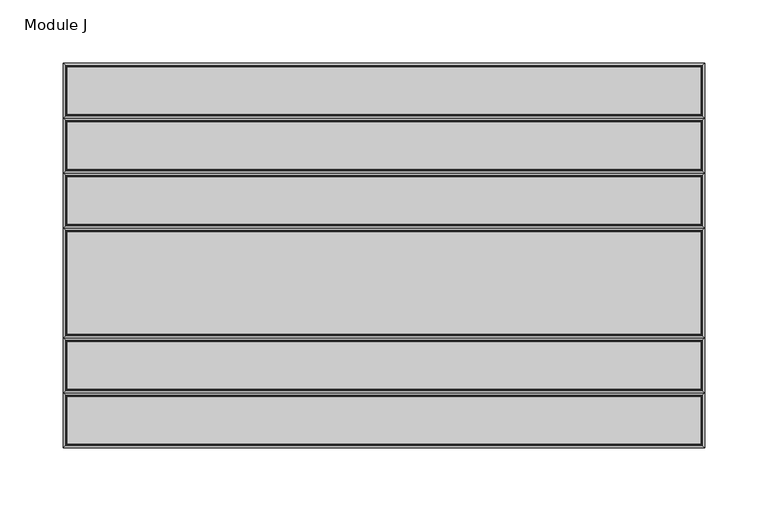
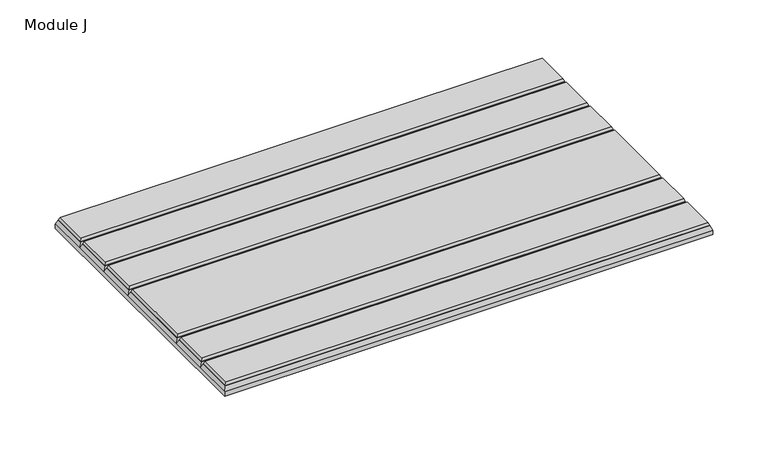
"""IFC4 building model written with IfcOpenShell, lengths in millimetres: proxy geometry, FilzFelt_Gap : Module J."""

from ifc_helpers import new_model, si_unit, origin, place, context, project, spatial, faceted_brep, source, transform, mapped, element, save


def module_j_3c90ee58(model_context):
    return source(origin(), model_context, "Body", "Brep", [
        faceted_brep([(-252.095, -150.495, 9.525), (252.095, -150.495, 9.525), (252.095, -110.7621429, 9.525), (-252.095, -110.7621429, 9.525), (252.095, 150.495, 9.525), (-252.095, 150.495, 9.525), (-252.095, 110.7621429, 9.525), (252.095, 110.7621429, 9.525), (252.095, 67.2192857, 9.525), (252.095, 106.9521429, 9.525), (-252.095, 106.9521429, 9.525), (-252.095, 67.2192857, 9.525), (252.095, 23.6764286, 9.525), (252.095, 63.4092857, 9.525), (-252.095, 63.4092857, 9.525), (-252.095, 23.6764286, 9.525), (252.095, -63.4092857, 9.525), (252.095, 19.8664286, 9.525), (-252.095, 19.8664286, 9.525), (-252.095, -63.4092857, 9.525), (252.095, -106.9521429, 9.525), (252.095, -67.2192857, 9.525), (-252.095, -67.2192857, 9.525), (-252.095, -106.9521429, 9.525), (254.0, 152.4, 0.0), (254.0, -152.4, 0.0), (-254.0, -152.4, 0.0), (-254.0, 152.4, 0.0), (-254.0, 152.4, 4.7625), (254.0, 152.4, 4.7625), (-254.0, -152.4, 4.7625), (-254.0, -108.8571429, 4.7625), (-254.0, -65.3142857, 4.7625), (-254.0, 21.7714286, 4.7625), (-254.0, 65.3142857, 4.7625), (-254.0, 108.8571429, 4.7625), (254.0, -152.4, 4.7625), (254.0, 108.8571429, 4.7625), (254.0, 65.3142857, 4.7625), (254.0, 21.7714286, 4.7625), (254.0, -65.3142857, 4.7625), (254.0, -108.8571429, 4.7625)], [[[0, 1, 2, 3]], [[4, 5, 6, 7]], [[8, 9, 10, 11]], [[12, 13, 14, 15]], [[16, 17, 18, 19]], [[20, 21, 22, 23]], [[24, 25, 26, 27]], [[24, 27, 28, 29]], [[27, 26, 30, 31, 32, 33, 34, 35, 28]], [[26, 25, 36, 30]], [[25, 24, 29, 37, 38, 39, 40, 41, 36]], [[9, 8, 38, 37]], [[13, 12, 39, 38]], [[17, 16, 40, 39]], [[21, 20, 41, 40]], [[1, 36, 41, 2]], [[29, 4, 7, 37]], [[36, 1, 0, 30]], [[11, 10, 35, 34]], [[15, 14, 34, 33]], [[19, 18, 33, 32]], [[23, 22, 32, 31]], [[30, 0, 3, 31]], [[5, 28, 35, 6]], [[28, 5, 4, 29]], [[35, 37, 7, 6]], [[37, 35, 10, 9]], [[34, 38, 8, 11]], [[38, 34, 14, 13]], [[33, 39, 12, 15]], [[39, 33, 18, 17]], [[32, 40, 16, 19]], [[40, 32, 22, 21]], [[31, 41, 20, 23]], [[41, 31, 3, 2]]]),
        faceted_brep([(252.095, -150.495, 9.525), (-252.095, -150.495, 9.525), (-252.095, -110.7621429, 9.525), (252.095, -110.7621429, 9.525), (-250.825, -149.225, 12.7), (250.825, -149.225, 12.7), (250.825, -112.0321429, 12.7), (-250.825, -112.0321429, 12.7)], [[[0, 1, 2, 3]], [[4, 5, 6, 7]], [[5, 0, 3, 6]], [[0, 5, 4, 1]], [[1, 4, 7, 2]], [[3, 2, 7, 6]]]),
        faceted_brep([(-252.095, 150.495, 9.525), (252.095, 150.495, 9.525), (252.095, 110.7621429, 9.525), (-252.095, 110.7621429, 9.525), (250.825, 149.225, 12.7), (-250.825, 149.225, 12.7), (-250.825, 112.0321429, 12.7), (250.825, 112.0321429, 12.7)], [[[0, 1, 2, 3]], [[4, 5, 6, 7]], [[1, 4, 7, 2]], [[5, 0, 3, 6]], [[0, 5, 4, 1]], [[3, 2, 7, 6]]]),
        faceted_brep([(252.095, 106.9521429, 9.525), (252.095, 67.2192857, 9.525), (-252.095, 67.2192857, 9.525), (-252.095, 106.9521429, 9.525), (250.825, 68.4892857, 12.7), (250.825, 105.6821429, 12.7), (-250.825, 105.6821429, 12.7), (-250.825, 68.4892857, 12.7)], [[[0, 1, 2, 3]], [[4, 5, 6, 7]], [[1, 0, 5, 4]], [[3, 2, 7, 6]], [[0, 3, 6, 5]], [[2, 1, 4, 7]]]),
        faceted_brep([(252.095, 63.4092857, 9.525), (252.095, 23.6764286, 9.525), (-252.095, 23.6764286, 9.525), (-252.095, 63.4092857, 9.525), (250.825, 24.9464286, 12.7), (250.825, 62.1392857, 12.7), (-250.825, 62.1392857, 12.7), (-250.825, 24.9464286, 12.7)], [[[0, 1, 2, 3]], [[4, 5, 6, 7]], [[1, 0, 5, 4]], [[3, 2, 7, 6]], [[0, 3, 6, 5]], [[2, 1, 4, 7]]]),
        faceted_brep([(252.095, 19.8664286, 9.525), (252.095, -63.4092857, 9.525), (-252.095, -63.4092857, 9.525), (-252.095, 19.8664286, 9.525), (250.825, -62.1392857, 12.7), (250.825, 18.5964286, 12.7), (-250.825, 18.5964286, 12.7), (-250.825, -62.1392857, 12.7)], [[[0, 1, 2, 3]], [[4, 5, 6, 7]], [[1, 0, 5, 4]], [[3, 2, 7, 6]], [[0, 3, 6, 5]], [[2, 1, 4, 7]]]),
        faceted_brep([(252.095, -67.2192857, 9.525), (252.095, -106.9521429, 9.525), (-252.095, -106.9521429, 9.525), (-252.095, -67.2192857, 9.525), (250.825, -105.6821429, 12.7), (250.825, -68.4892857, 12.7), (-250.825, -68.4892857, 12.7), (-250.825, -105.6821429, 12.7)], [[[0, 1, 2, 3]], [[4, 5, 6, 7]], [[1, 0, 5, 4]], [[3, 2, 7, 6]], [[0, 3, 6, 5]], [[2, 1, 4, 7]]]),
    ])


if __name__ == "__main__":
    model = new_model("IFC4")
    model_context = context("Model", 3, world=origin())
    ifc_project = project(units=[si_unit("LENGTHUNIT", "METRE", prefix="MILLI")], contexts=[model_context])
    site = spatial("IfcSite", under=ifc_project)
    building = spatial("IfcBuilding", under=site)
    placement = place(None, origin())
    module_j_shape = module_j_3c90ee58(model_context)
    element("IfcBuildingElementProxy", 1, Name="FilzFelt_Gap : Module J", ObjectType="FilzFelt_Gap : Module J", at=placement, inside=building, context=model_context, shape_type="MappedRepresentation", body=[
        mapped(module_j_shape, transform((0.0, 0.0, 0.0), x_axis=(1.0, 0.0, 0.0), y_axis=(0.0, 1.0, 0.0), z_axis=(0.0, 0.0, 1.0))),
    ])
    save(model, "model.ifc")
